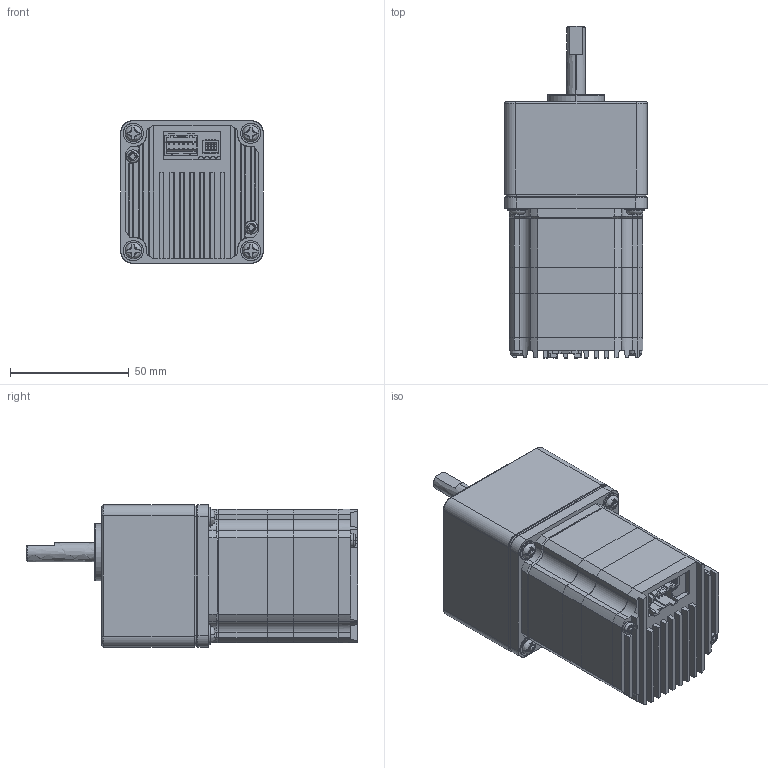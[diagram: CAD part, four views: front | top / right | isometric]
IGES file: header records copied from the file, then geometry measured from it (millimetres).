
Start section: SolidWorks IGES file using analytic representation for surfaces
Global section: file name: \\192.168.17.31\sw_kari\7677\ステップ\SSA ギヤ付\□56\SSA-P□-56D1SD_p.IGS; native system: SolidWorks 2009; preprocessor: SolidWorks 2009; author: user0013; date: 120229.095301; units: millimetre
Bounding box: 60 x 140 x 60 mm (x, y, z)
Surface area: 76135.8 mm2 (no closed solid volume)
Topology: 0 solids, 0 shells, 1258 faces, 11779 edges, 11773 vertices
Faces by surface type: bspline 833, revolution 425
